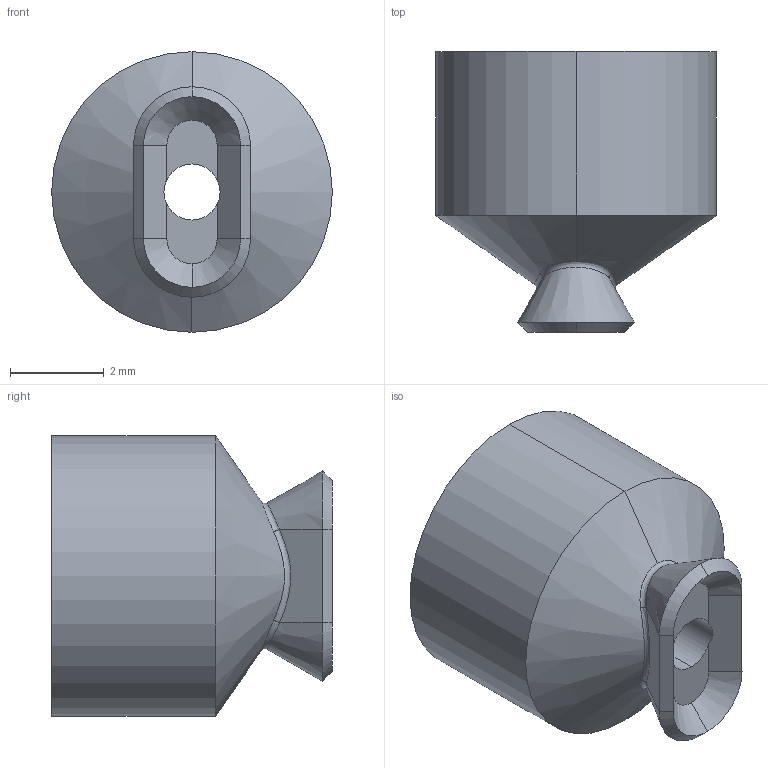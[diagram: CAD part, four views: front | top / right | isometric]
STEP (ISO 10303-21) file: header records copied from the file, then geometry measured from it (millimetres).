
FILE_DESCRIPTION (( 'STEP AP214' ), '1' );
FILE_NAME ('VS-PO24.STEP', '2019-11-25T06:42:22', ( '微软用户' ), ( '微软中国' ), 'SwSTEP 2.0', 'SolidWorks 2016', '' );
FILE_SCHEMA (( 'AUTOMOTIVE_DESIGN' ));
Length unit declared in the file: millimetre
Products named in the file (1): VS-PO24
Bounding box: 6 x 6 x 6 mm (x, y, z)
Volume: 107.8 mm3; surface area: 185 mm2
Topology: 1 solids, 1 shells, 34 faces, 79 edges, 48 vertices
Faces by surface type: cone 11, plane 11, cylinder 8, bspline 4
Entity records: 3606 total; most frequent: CARTESIAN_POINT 2444, ORIENTED_EDGE 158, DIRECTION 153, EDGE_CURVE 79, AXIS2_PLACEMENT_3D 60, VERTEX_POINT 48, EDGE_LOOP 37, UNCERTAINTY_MEASURE_WITH_UNIT 37
